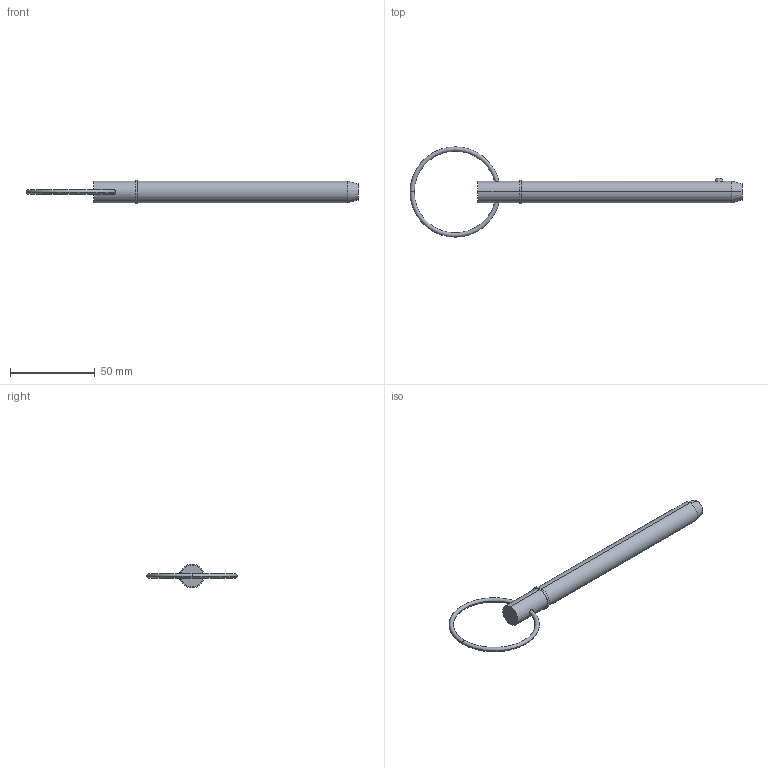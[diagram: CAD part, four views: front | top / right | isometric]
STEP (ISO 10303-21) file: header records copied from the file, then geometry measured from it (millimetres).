
FILE_DESCRIPTION (( 'STEP AP203' ), '1' );
FILE_NAME ('33016.W5045.step', '2024-11-07T11:09:31', ( '' ), ( '' ), 'SwSTEP 2.0', 'SolidWorks 2019', '' );
FILE_SCHEMA (( 'CONFIG_CONTROL_DESIGN' ));
Length unit declared in the file: millimetre
Products named in the file (3): Part2_33016.W5045; Part1_33016.W5045; 33016.W5045
Assembly tree (2 placements, depth 2):
  33016.W5045
    Part1_33016.W5045
    Part2_33016.W5045
Bounding box: 195.93 x 53.34 x 13.97 mm (x, y, z)
Volume: 20336.2 mm3; surface area: 7848.8 mm2
Topology: 2 solids, 2 shells, 22 faces, 43 edges, 26 vertices
Faces by surface type: torus 8, cylinder 6, plane 4, sphere 2, cone 2
Entity records: 1039 total; most frequent: CARTESIAN_POINT 262, DIRECTION 120, ORIENTED_EDGE 86, AXIS2_PLACEMENT_3D 56, EDGE_CURVE 43, CIRCLE 29, EDGE_LOOP 27, VERTEX_POINT 26
